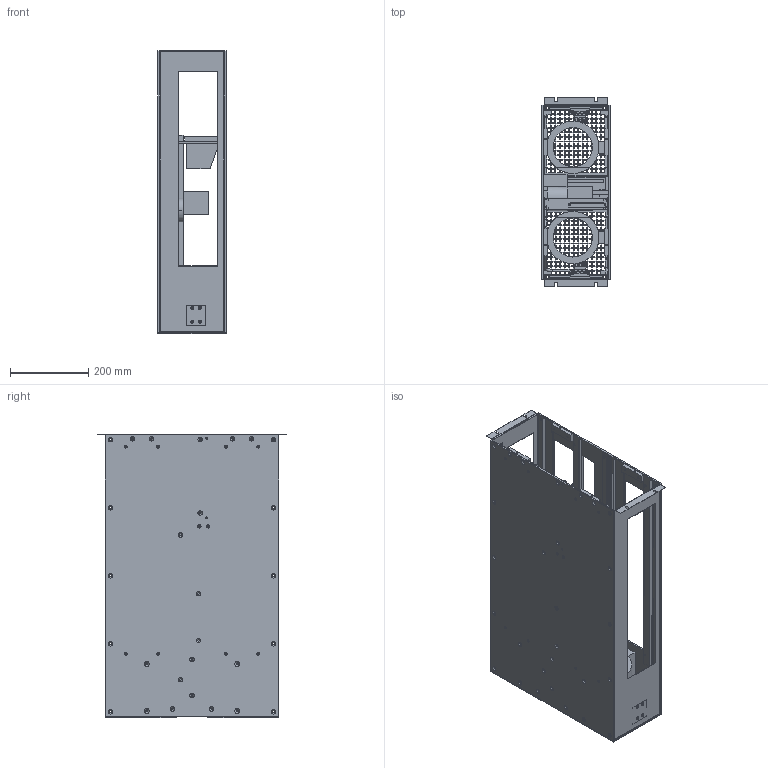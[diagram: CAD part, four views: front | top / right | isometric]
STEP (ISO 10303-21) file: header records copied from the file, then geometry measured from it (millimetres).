
FILE_DESCRIPTION(('HOOPS Exchange Step'),'2;1');
FILE_NAME('C:\hadoop-env\accvizpipeline-1.0.0\AccVizTemp_4b2ht3n2qbf\out_af064dcd-cbe0-45b4-abcc-db922117bede.stp','2021-05-13T14:11:45+02:00',('plmconv'),('Unknown organisation'),'HOOPS Exchange 2020.2','HOOPS Exchange','Unknown authorisation');
FILE_SCHEMA( ('AP242_MANAGED_MODEL_BASED_3D_ENGINEERING_MIM_LF {1 0 10303 442 1 1 4 }') );
Length unit declared in the file: millimetre
Products named in the file (35): ST0725659_01; ST0816510_01; ST0818177_01; ST0725660_01; ST0722321_01; ST0817795_01; ST0817794_01; ST0725769_01; ST0724993_01; ST0730095_01; ISO 4762 M3x20-A4_01; ST0821869_01; ISO 4762_M3x16-8.8-A0C_01; ST0730013_01(ST0730013_01.1); ST0730013_01(ST0730013_01.2); ST0810037_01; ST0732922_01; ISO 2009_M3x10-A4_01; ISO 10511_M3-8-A0U_01; ISO 7046-1_M5x12_H-A4_01; ISO 7046-1_M4x12_H-4.8-A0U_01; ST0823700_01; Product1(Visserie); ST0821029_01; ST0821092_01; ST0821075_01; ST0821134_01; ST0821139_01; ST0824737_01; ST0824779_01; ST0824774_01; ST0824795_01; ST0824897_01; ST0824932_01; ST0725562_01
Assembly tree (55 placements, depth 3):
  ST0725562_01
    ST0725659_01
    ST0816510_01
    ST0818177_01
    ST0725660_01
    ST0722321_01  x8
    ST0817795_01  x2
    ST0817794_01  x2
    ST0725769_01  x2
    ST0730013_01(ST0730013_01.1)
      ST0724993_01
      ST0730095_01
      ISO 4762 M3x20-A4_01
      ST0821869_01
      ISO 4762_M3x16-8.8-A0C_01
    ST0730013_01(ST0730013_01.2)
      ST0724993_01
      ST0730095_01
      ISO 4762 M3x20-A4_01
      ST0821869_01
      ISO 4762_M3x16-8.8-A0C_01
    ST0810037_01  x4
    Product1(Visserie)
      ST0732922_01
      ISO 2009_M3x10-A4_01
      ISO 10511_M3-8-A0U_01
      ISO 7046-1_M5x12_H-A4_01
      ISO 7046-1_M4x12_H-4.8-A0U_01
      ST0823700_01
    ST0821029_01  x2
    ST0821092_01
    ST0821075_01
    ST0821134_01  x2
    ST0821139_01
    ST0824737_01  x2
    ST0824779_01
    ST0824774_01
    ST0824795_01
    ST0824897_01
    ST0824932_01
Bounding box: 174 x 485 x 724 mm (x, y, z)
Volume: 6830486.6 mm3; surface area: 2719361.3 mm2
Topology: 52 solids, 52 shells, 3135 faces, 8514 edges, 5499 vertices
Faces by surface type: plane 2079, cylinder 650, cone 338, torus 44, bspline 24
Entity records: 66091 total; most frequent: CARTESIAN_POINT 13465, DIRECTION 10612, ORIENTED_EDGE 10534, EDGE_CURVE 5267, VECTOR 3852, LINE 3852, AXIS2_PLACEMENT_3D 3380, VERTEX_POINT 3367
